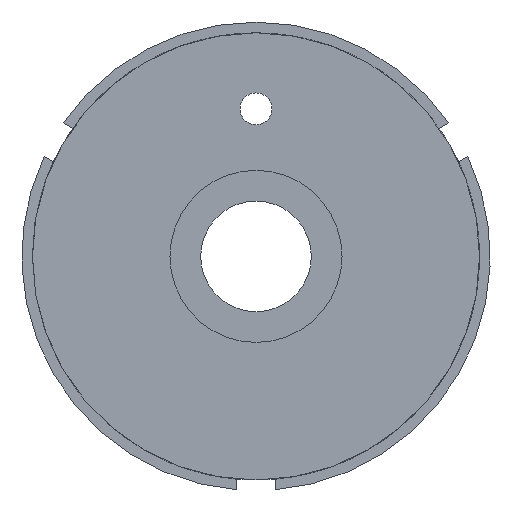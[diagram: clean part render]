
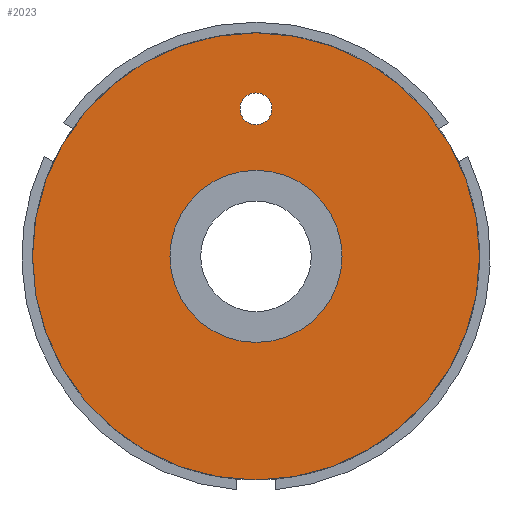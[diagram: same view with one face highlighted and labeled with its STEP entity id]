
A CAD part, left-side view. The second image highlights one B-rep face of the part: STEP entity #2023.
In plain terms, the highlighted planar face has unit normal (-1, 0, 0).
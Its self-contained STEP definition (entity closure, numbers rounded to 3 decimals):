
#1765 = CYLINDRICAL_SURFACE('',#1766,2.6);
#1766 = AXIS2_PLACEMENT_3D('',#1767,#1768,#1769);
#1767 = CARTESIAN_POINT('',(-26.6,0.,24.));
#1768 = DIRECTION('',(1.,0.,0.));
#1769 = DIRECTION('',(-0.,0.,1.));
#1896 = VERTEX_POINT('',#1897);
#1897 = CARTESIAN_POINT('',(19.9,0.,26.6));
#1918 = EDGE_CURVE('',#1896,#1896,#1919,.T.);
#1919 = SURFACE_CURVE('',#1920,(#1925,#1932),.PCURVE_S1.);
#1920 = CIRCLE('',#1921,2.6);
#1921 = AXIS2_PLACEMENT_3D('',#1922,#1923,#1924);
#1922 = CARTESIAN_POINT('',(19.9,0.,24.));
#1923 = DIRECTION('',(1.,0.,0.));
#1924 = DIRECTION('',(-0.,0.,1.));
#1925 = PCURVE('',#1765,#1926);
#1926 = DEFINITIONAL_REPRESENTATION('',(#1927),#1931);
#1927 = LINE('',#1928,#1929);
#1928 = CARTESIAN_POINT('',(0.,46.5));
#1929 = VECTOR('',#1930,1.);
#1930 = DIRECTION('',(1.,0.));
#1931 = ( GEOMETRIC_REPRESENTATION_CONTEXT(2) 
PARAMETRIC_REPRESENTATION_CONTEXT() REPRESENTATION_CONTEXT('2D SPACE',''
  ) );
#1932 = PCURVE('',#1933,#1938);
#1933 = PLANE('',#1934);
#1934 = AXIS2_PLACEMENT_3D('',#1935,#1936,#1937);
#1935 = CARTESIAN_POINT('',(19.9,0.,0.)
  );
#1936 = DIRECTION('',(1.,0.,0.));
#1937 = DIRECTION('',(-0.,0.,1.));
#1938 = DEFINITIONAL_REPRESENTATION('',(#1939),#1943);
#1939 = CIRCLE('',#1940,2.6);
#1940 = AXIS2_PLACEMENT_2D('',#1941,#1942);
#1941 = CARTESIAN_POINT('',(24.,0.));
#1942 = DIRECTION('',(1.,0.));
#1943 = ( GEOMETRIC_REPRESENTATION_CONTEXT(2) 
PARAMETRIC_REPRESENTATION_CONTEXT() REPRESENTATION_CONTEXT('2D SPACE',''
  ) );
#2023 = ADVANCED_FACE('',(#2024,#2055,#2090),#1933,.F.);
#2024 = FACE_BOUND('',#2025,.F.);
#2025 = EDGE_LOOP('',(#2026));
#2026 = ORIENTED_EDGE('',*,*,#2027,.T.);
#2027 = EDGE_CURVE('',#2028,#2028,#2030,.T.);
#2028 = VERTEX_POINT('',#2029);
#2029 = CARTESIAN_POINT('',(19.9,36.375,0.));
#2030 = SURFACE_CURVE('',#2031,(#2036,#2043),.PCURVE_S1.);
#2031 = CIRCLE('',#2032,36.375);
#2032 = AXIS2_PLACEMENT_3D('',#2033,#2034,#2035);
#2033 = CARTESIAN_POINT('',(19.9,0.,0.));
#2034 = DIRECTION('',(1.,0.,0.));
#2035 = DIRECTION('',(0.,1.,0.));
#2036 = PCURVE('',#1933,#2037);
#2037 = DEFINITIONAL_REPRESENTATION('',(#2038),#2042);
#2038 = CIRCLE('',#2039,36.375);
#2039 = AXIS2_PLACEMENT_2D('',#2040,#2041);
#2040 = CARTESIAN_POINT('',(0.,0.));
#2041 = DIRECTION('',(0.,-1.));
#2042 = ( GEOMETRIC_REPRESENTATION_CONTEXT(2) 
PARAMETRIC_REPRESENTATION_CONTEXT() REPRESENTATION_CONTEXT('2D SPACE',''
  ) );
#2043 = PCURVE('',#2044,#2049);
#2044 = CYLINDRICAL_SURFACE('',#2045,36.375);
#2045 = AXIS2_PLACEMENT_3D('',#2046,#2047,#2048);
#2046 = CARTESIAN_POINT('',(19.9,0.,0.));
#2047 = DIRECTION('',(-1.,-0.,-0.));
#2048 = DIRECTION('',(0.,1.,0.));
#2049 = DEFINITIONAL_REPRESENTATION('',(#2050),#2054);
#2050 = LINE('',#2051,#2052);
#2051 = CARTESIAN_POINT('',(-0.,0.));
#2052 = VECTOR('',#2053,1.);
#2053 = DIRECTION('',(-1.,0.));
#2054 = ( GEOMETRIC_REPRESENTATION_CONTEXT(2) 
PARAMETRIC_REPRESENTATION_CONTEXT() REPRESENTATION_CONTEXT('2D SPACE',''
  ) );
#2055 = FACE_BOUND('',#2056,.F.);
#2056 = EDGE_LOOP('',(#2057));
#2057 = ORIENTED_EDGE('',*,*,#2058,.T.);
#2058 = EDGE_CURVE('',#2059,#2059,#2061,.T.);
#2059 = VERTEX_POINT('',#2060);
#2060 = CARTESIAN_POINT('',(19.9,14.,0.));
#2061 = SURFACE_CURVE('',#2062,(#2067,#2078),.PCURVE_S1.);
#2062 = CIRCLE('',#2063,14.);
#2063 = AXIS2_PLACEMENT_3D('',#2064,#2065,#2066);
#2064 = CARTESIAN_POINT('',(19.9,0.,0.));
#2065 = DIRECTION('',(-1.,0.,0.));
#2066 = DIRECTION('',(0.,1.,0.));
#2067 = PCURVE('',#1933,#2068);
#2068 = DEFINITIONAL_REPRESENTATION('',(#2069),#2077);
#2069 = ( BOUNDED_CURVE() B_SPLINE_CURVE(2,(#2070,#2071,#2072,#2073,
#2074,#2075,#2076),.UNSPECIFIED.,.T.,.F.) B_SPLINE_CURVE_WITH_KNOTS((1,2
    ,2,2,2,1),(-2.094,0.,2.094,4.189,
6.283,8.378),.UNSPECIFIED.) CURVE() 
GEOMETRIC_REPRESENTATION_ITEM() RATIONAL_B_SPLINE_CURVE((1.,0.5,1.,0.5,
1.,0.5,1.)) REPRESENTATION_ITEM('') );
#2070 = CARTESIAN_POINT('',(0.,-14.));
#2071 = CARTESIAN_POINT('',(-24.249,-14.));
#2072 = CARTESIAN_POINT('',(-12.124,7.));
#2073 = CARTESIAN_POINT('',(0.,28.));
#2074 = CARTESIAN_POINT('',(12.124,7.));
#2075 = CARTESIAN_POINT('',(24.249,-14.));
#2076 = CARTESIAN_POINT('',(0.,-14.));
#2077 = ( GEOMETRIC_REPRESENTATION_CONTEXT(2) 
PARAMETRIC_REPRESENTATION_CONTEXT() REPRESENTATION_CONTEXT('2D SPACE',''
  ) );
#2078 = PCURVE('',#2079,#2084);
#2079 = CYLINDRICAL_SURFACE('',#2080,14.);
#2080 = AXIS2_PLACEMENT_3D('',#2081,#2082,#2083);
#2081 = CARTESIAN_POINT('',(18.9,0.,0.));
#2082 = DIRECTION('',(-1.,-0.,-0.));
#2083 = DIRECTION('',(0.,1.,0.));
#2084 = DEFINITIONAL_REPRESENTATION('',(#2085),#2089);
#2085 = LINE('',#2086,#2087);
#2086 = CARTESIAN_POINT('',(-6.283,-1.));
#2087 = VECTOR('',#2088,1.);
#2088 = DIRECTION('',(1.,-0.));
#2089 = ( GEOMETRIC_REPRESENTATION_CONTEXT(2) 
PARAMETRIC_REPRESENTATION_CONTEXT() REPRESENTATION_CONTEXT('2D SPACE',''
  ) );
#2090 = FACE_BOUND('',#2091,.F.);
#2091 = EDGE_LOOP('',(#2092));
#2092 = ORIENTED_EDGE('',*,*,#1918,.F.);
